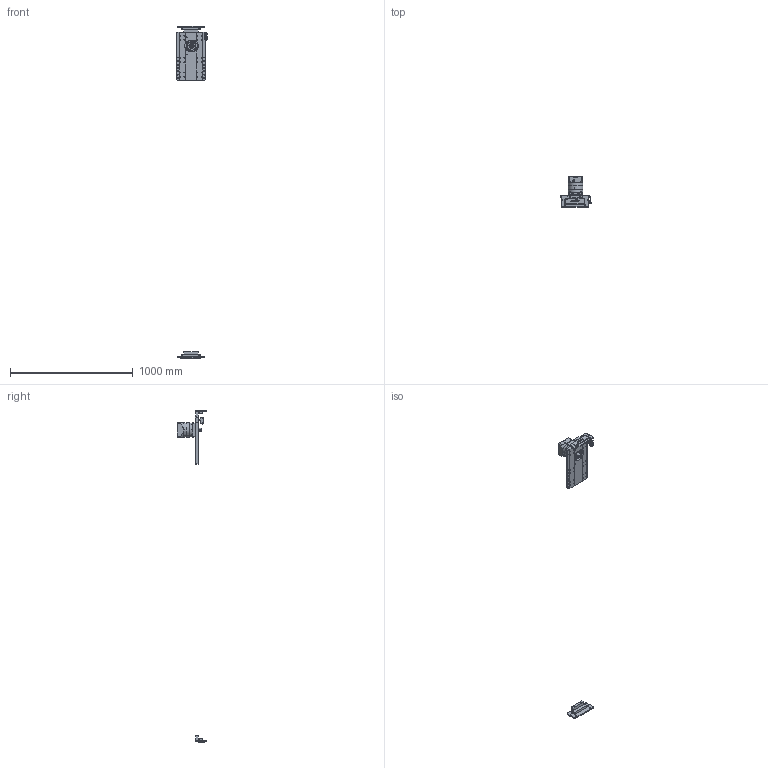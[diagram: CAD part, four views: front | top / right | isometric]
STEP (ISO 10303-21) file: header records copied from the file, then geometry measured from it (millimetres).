
FILE_DESCRIPTION (( 'STEP AP203' ), '1' );
FILE_NAME ('RY220-C-300-UK.SLDASM_2200.step', '2022-08-01T05:59:57', ( '' ), ( '' ), 'SwSTEP 2.0', 'SolidWorks 2016', '' );
FILE_SCHEMA (( 'CONFIG_CONTROL_DESIGN' ));
Length unit declared in the file: millimetre
Products named in the file (10): RY220-齿条模组电机安装板; 覜茼ん674; RY220喘沭俋离覜茼え; RY220-C-300-UK.SLDASM_2200; PF115L1-S2-22-58-110-145-M8; RY220喘沭綴裔啣; RY220菁釱MK-300_2200; RY140直线电机感应器674光电安装座; 滅袉蝶輸ㄗG412隅秶ㄘ; RY220喘沭賑輸
Assembly tree (12 placements, depth 2):
  RY220-C-300-UK.SLDASM_2200
    RY220菁釱MK-300_2200
    RY220喘沭賑輸
    RY220-齿条模组电机安装板
    PF115L1-S2-22-58-110-145-M8
    RY220喘沭綴裔啣  x2
    滅袉蝶輸ㄗG412隅秶ㄘ  x2
    RY140直线电机感应器674光电安装座
    覜茼ん674  x2
    RY220喘沭俋离覜茼え
Bounding box: 247 x 244 x 2709 mm (x, y, z)
Volume: 4410470.2 mm3; surface area: 668229.7 mm2
Topology: 17 solids, 25 shells, 1382 faces, 3603 edges, 2355 vertices
Faces by surface type: plane 637, cylinder 553, bspline 162, cone 30
Entity records: 71613 total; most frequent: CARTESIAN_POINT 19508, DIRECTION 10743, ORIENTED_EDGE 10514, EDGE_CURVE 5257, AXIS2_PLACEMENT_3D 4109, VERTEX_POINT 3432, EDGE_LOOP 2621, LINE 2525
